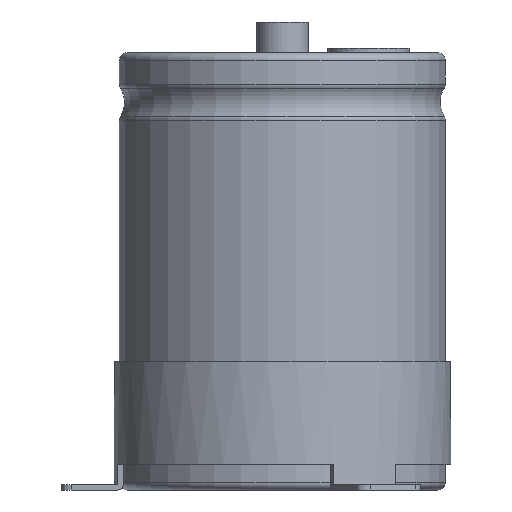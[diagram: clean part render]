
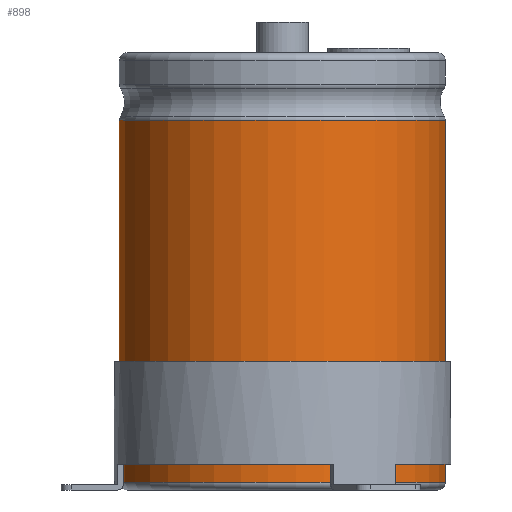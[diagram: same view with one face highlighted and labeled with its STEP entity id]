
A CAD part, front view. The second image highlights one B-rep face of the part: STEP entity #898.
In plain terms, the highlighted cylindrical face has radius 31.75 mm (diameter 63.5 mm), a partial arc.
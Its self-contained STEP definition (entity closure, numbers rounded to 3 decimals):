
#898=ADVANCED_FACE('',(#1199),#1037,.T.);
#1037=CYLINDRICAL_SURFACE('',#4842,31.75);
#1199=FACE_OUTER_BOUND('',#1450,.T.);
#1450=EDGE_LOOP('',(#2666,#2667,#2668,#2669));
#1741=CIRCLE('',#4839,31.75);
#1742=CIRCLE('',#4841,31.75);
#2666=ORIENTED_EDGE('',*,*,#3888,.T.);
#2667=ORIENTED_EDGE('',*,*,#3889,.T.);
#2668=ORIENTED_EDGE('',*,*,#3890,.F.);
#2669=ORIENTED_EDGE('',*,*,#3891,.F.);
#3337=VERTEX_POINT('',#7875);
#3339=VERTEX_POINT('',#7879);
#3340=VERTEX_POINT('',#7883);
#3341=VERTEX_POINT('',#7885);
#3888=EDGE_CURVE('',#3337,#3339,#1741,.T.);
#3889=EDGE_CURVE('',#3339,#3340,#4231,.T.);
#3890=EDGE_CURVE('',#3341,#3340,#1742,.T.);
#3891=EDGE_CURVE('',#3337,#3341,#4232,.T.);
#4231=LINE('',#7882,#4445);
#4232=LINE('',#7886,#4446);
#4445=VECTOR('',#5840,1.);
#4446=VECTOR('',#5843,1.);
#4839=AXIS2_PLACEMENT_3D('',#7880,#5836,#5837);
#4841=AXIS2_PLACEMENT_3D('',#7884,#5841,#5842);
#4842=AXIS2_PLACEMENT_3D('',#7887,#5844,#5845);
#5836=DIRECTION('',(0.,0.,-1.));
#5837=DIRECTION('',(0.,1.,0.));
#5840=DIRECTION('',(0.,0.,-1.));
#5841=DIRECTION('',(0.,0.,-1.));
#5842=DIRECTION('',(0.,1.,0.));
#5843=DIRECTION('',(0.,0.,-1.));
#5844=DIRECTION('',(0.,0.,-1.));
#5845=DIRECTION('',(0.,1.,0.));
#7875=CARTESIAN_POINT('',(4.007,31.496,71.9));
#7879=CARTESIAN_POINT('',(-4.007,31.496,71.9));
#7880=CARTESIAN_POINT('',(0.,0.,71.9));
#7882=CARTESIAN_POINT('',(-4.007,31.496,71.9));
#7883=CARTESIAN_POINT('',(-4.007,31.496,1.5));
#7884=CARTESIAN_POINT('',(0.,0.,1.5));
#7885=CARTESIAN_POINT('',(4.007,31.496,1.5));
#7886=CARTESIAN_POINT('',(4.007,31.496,71.9));
#7887=CARTESIAN_POINT('',(0.,0.,0.));
